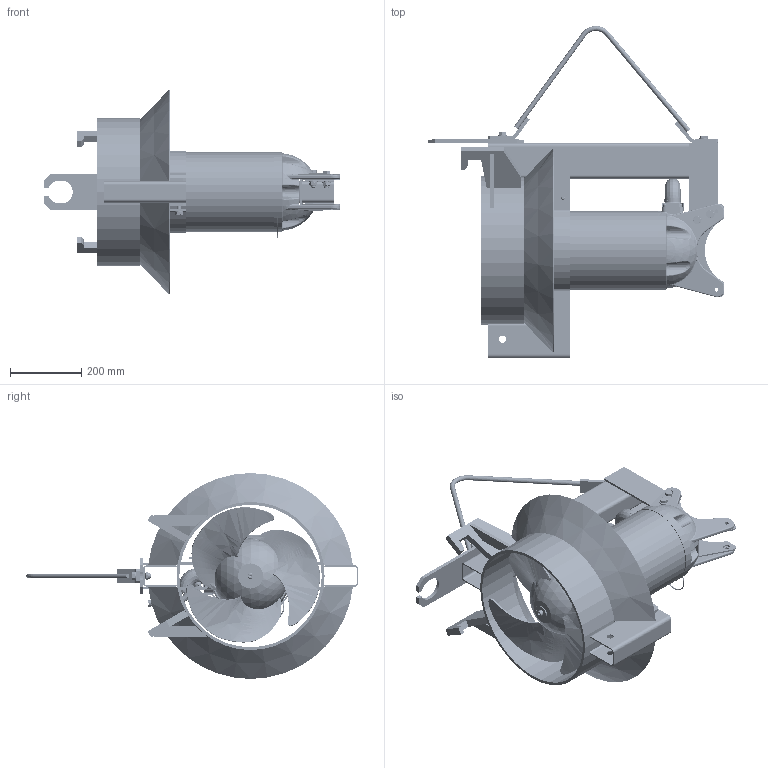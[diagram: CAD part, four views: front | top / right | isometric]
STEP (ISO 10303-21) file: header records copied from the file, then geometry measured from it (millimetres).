
FILE_DESCRIPTION (( 'STEP AP214' ), '1' );
FILE_NAME ('RCP400_ANSI_MSD.STEP', '2022-11-18T05:47:57', ( '' ), ( '' ), 'SwSTEP 2.0', 'SolidWorks 2017', '' );
FILE_SCHEMA (( 'AUTOMOTIVE_DESIGN' ));
Length unit declared in the file: millimetre
Products named in the file (1): RCP400_ANSI_MSD
Bounding box: 833 x 932.13 x 577.93 mm (x, y, z)
Volume: 16861256.8 mm3; surface area: 4657551 mm2
Topology: 266 solids, 266 shells, 6863 faces, 15774 edges, 9535 vertices
Faces by surface type: plane 2111, cylinder 2010, torus 952, cone 879, bspline 697, sphere 214
Entity records: 397464 total; most frequent: CARTESIAN_POINT 166672, DIRECTION 32615, ORIENTED_EDGE 30940, EDGE_CURVE 15470, AXIS2_PLACEMENT_3D 13454, VERTEX_POINT 9449, EDGE_LOOP 7759, CIRCLE 7287
